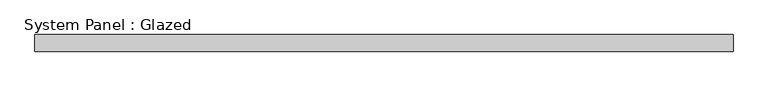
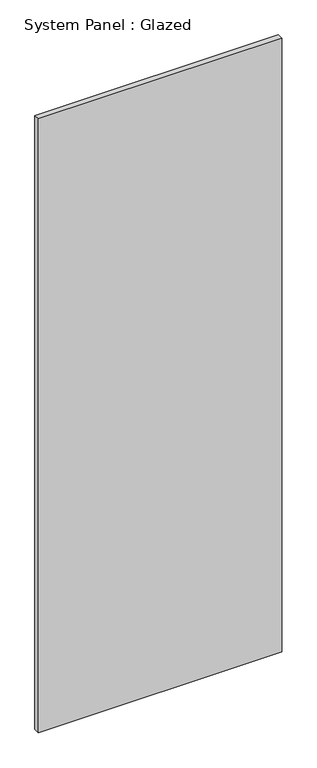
"""IFC4 building model written with IfcOpenShell, lengths in millimetres: plate geometry, System Panel : Glazed."""

from ifc_helpers import new_model, si_unit, origin, origin_with_axes, place, context, project, spatial, polyline, outline, extrude, source, transform, mapped, element, save


def system_panel_glazed_a2ed6453(model_context):
    return source(origin(), model_context, "Body", "SweptSolid", [
        extrude(outline(polyline([(524.9999999, 19.05), (-524.9999999, 19.05), (-524.9999999, 44.45), (524.9999999, 44.45), (524.9999999, 19.05)])), origin_with_axes(), (0.0, 0.0, 1.0), 2800.0),
    ])


if __name__ == "__main__":
    model = new_model("IFC4")
    model_context = context("Model", 3, world=origin())
    ifc_project = project(units=[si_unit("LENGTHUNIT", "METRE", prefix="MILLI")], contexts=[model_context])
    site = spatial("IfcSite", under=ifc_project)
    building = spatial("IfcBuilding", under=site)
    placement = place(None, origin())
    system_panel_glazed_shape = system_panel_glazed_a2ed6453(model_context)
    element("IfcPlate", 1, ObjectType="System Panel : Glazed", at=placement, inside=building, context=model_context, shape_type="MappedRepresentation", body=[
        mapped(system_panel_glazed_shape, transform((0.0, 0.0, 0.0), x_axis=(1.0, 0.0, 0.0), y_axis=(0.0, 1.0, 0.0), z_axis=(0.0, 0.0, 1.0))),
    ])
    save(model, "model.ifc")
